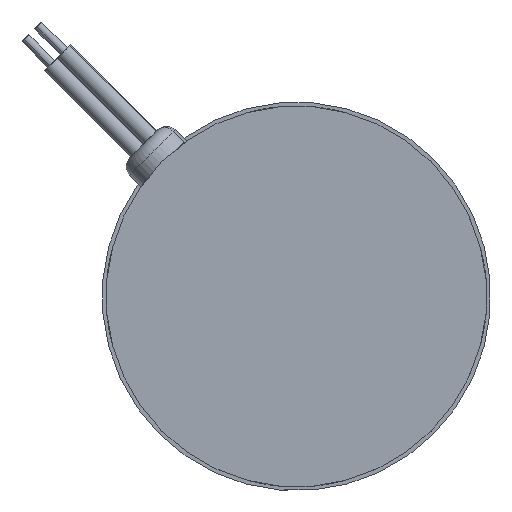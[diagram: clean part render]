
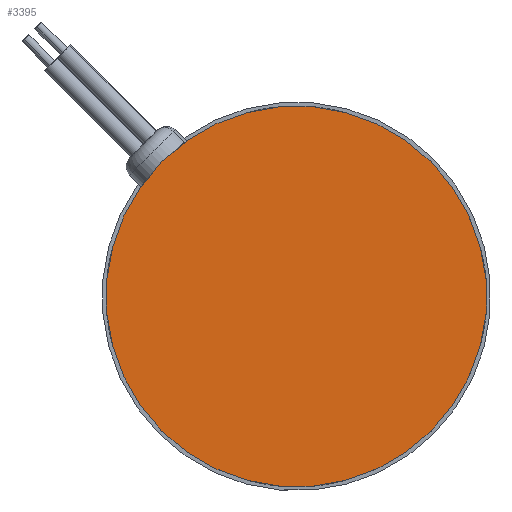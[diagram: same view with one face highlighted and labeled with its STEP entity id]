
A CAD part, left-side view. The second image highlights one B-rep face of the part: STEP entity #3395.
In plain terms, the highlighted planar face has unit normal (-1, 0, 0).
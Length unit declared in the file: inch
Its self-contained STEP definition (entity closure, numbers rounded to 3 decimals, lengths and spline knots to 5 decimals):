
#720 = DIRECTION ( 'NONE',  ( 1., 0., 0. ) ) ;
#813 = CIRCLE ( 'NONE', #8723, 1.5624 ) ;
#1414 = ORIENTED_EDGE ( 'NONE', *, *, #3430, .F. ) ;
#1476 = DIRECTION ( 'NONE',  ( 0., -0.707, 0.707 ) ) ;
#2358 = DIRECTION ( 'NONE',  ( 1., 0., 0. ) ) ;
#2787 = CARTESIAN_POINT ( 'NONE',  ( -0.32797, 2.40744, 5.7787 ) ) ;
#2953 = EDGE_CURVE ( 'NONE', #9844, #3150, #813, .T. ) ;
#3150 = VERTEX_POINT ( 'NONE', #8487 ) ;
#3395 = ADVANCED_FACE ( 'NONE', ( #6062 ), #8576, .F. ) ;
#3430 = EDGE_CURVE ( 'NONE', #3150, #9844, #9379, .T. ) ;
#3802 = CARTESIAN_POINT ( 'NONE',  ( -0.32797, 3.51222, 4.67391 ) ) ;
#4584 = CARTESIAN_POINT ( 'NONE',  ( -0.32797, 3.51222, 4.67391 ) ) ;
#4999 = AXIS2_PLACEMENT_3D ( 'NONE', #4584, #2358, #6971 ) ;
#5084 = DIRECTION ( 'NONE',  ( 0., -0.707, 0.707 ) ) ;
#5241 = ORIENTED_EDGE ( 'NONE', *, *, #2953, .F. ) ;
#5681 = EDGE_LOOP ( 'NONE', ( #1414, #5241 ) ) ;
#6062 = FACE_OUTER_BOUND ( 'NONE', #5681, .T. ) ;
#6971 = DIRECTION ( 'NONE',  ( 0., -0.707, 0.707 ) ) ;
#7403 = CARTESIAN_POINT ( 'NONE',  ( -0.32797, 3.51222, 4.67391 ) ) ;
#8015 = AXIS2_PLACEMENT_3D ( 'NONE', #3802, #720, #1476 ) ;
#8487 = CARTESIAN_POINT ( 'NONE',  ( -0.32797, 4.61701, 3.56913 ) ) ;
#8576 = PLANE ( 'NONE',  #8015 ) ;
#8723 = AXIS2_PLACEMENT_3D ( 'NONE', #7403, #9051, #5084 ) ;
#9051 = DIRECTION ( 'NONE',  ( 1., 0., 0. ) ) ;
#9379 = CIRCLE ( 'NONE', #4999, 1.5624 ) ;
#9844 = VERTEX_POINT ( 'NONE', #2787 ) ;
